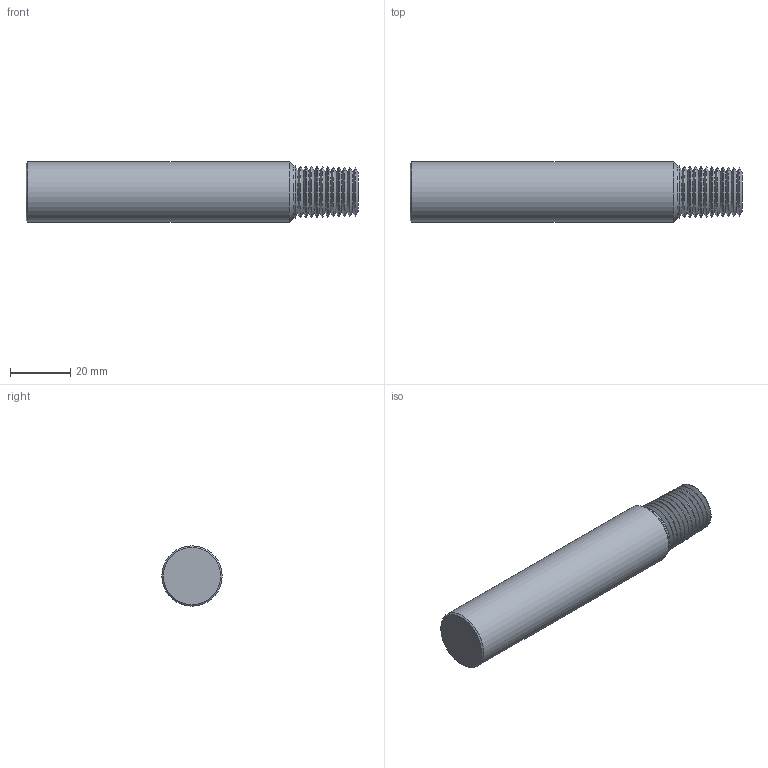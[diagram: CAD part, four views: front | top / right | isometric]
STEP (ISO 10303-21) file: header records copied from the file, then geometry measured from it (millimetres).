
FILE_DESCRIPTION(/* description */ (''),/* implementation_level */ '2;1');
FILE_NAME(/* name */ '170764-00035712-TDM',/* time_stamp */ '2024-02-21T11:48:21+01:00',/* author */ (''),/* organization */ (''),/* preprocessor_version */ 'ST-DEVELOPER v16.5',/* originating_system */ 'HiCAD 2017 2201.0 Build 268',/* authorisation */ '');
FILE_SCHEMA (('AUTOMOTIVE_DESIGN { 1 0 10303 214 1 1 1 1 }'));
Length unit declared in the file: millimetre
Products named in the file (3): Root; ROTATIONSTEIL_0
Assembly tree (2 placements, depth 3):
  Root
    ROTATIONSTEIL_0
      ROTATIONSTEIL_0
Bounding box: 110 x 20 x 20 mm (x, y, z)
Volume: 31692.6 mm3; surface area: 8249.4 mm2
Topology: 2 solids, 2 shells, 55 faces, 106 edges, 55 vertices
Faces by surface type: cone 26, torus 23, plane 4, cylinder 2
Full cylindrical faces by diameter (mm): 17.246 x1, 20 x1
Entity records: 1674 total; most frequent: DIRECTION 224, CARTESIAN_POINT 165, AXIS2_PLACEMENT_3D 112, PRESENTATION_STYLE_ASSIGNMENT 108, COLOUR_RGB 108, DRAUGHTING_PRE_DEFINED_CURVE_FONT 106, CURVE_STYLE 106, OVER_RIDING_STYLED_ITEM 106
